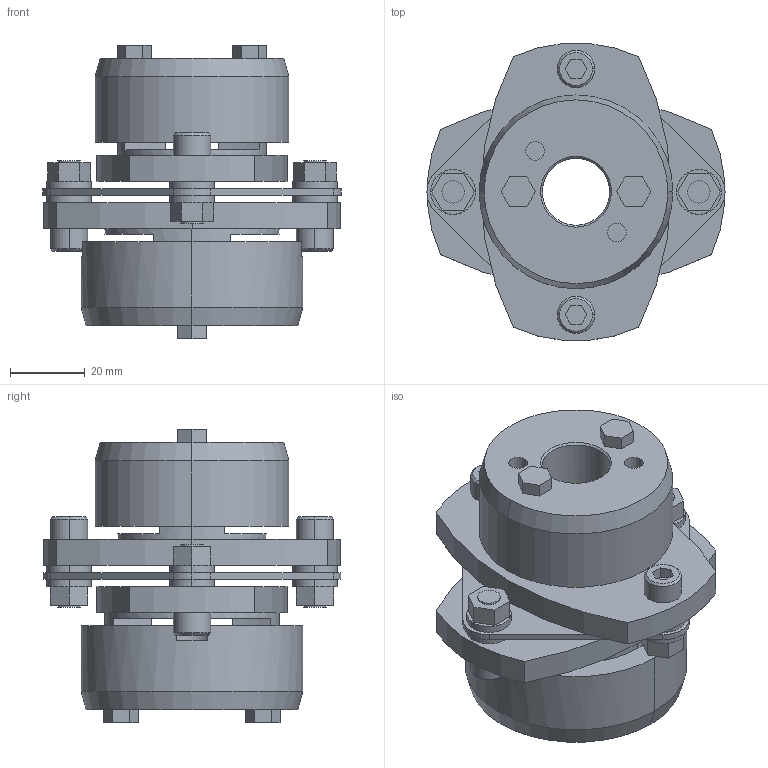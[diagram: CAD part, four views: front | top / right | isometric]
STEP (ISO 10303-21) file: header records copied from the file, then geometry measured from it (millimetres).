
FILE_DESCRIPTION((''),'2;1');
FILE_NAME('LCS-80T7-18×25.stp','2011-09-12T15:00:31',(''),(''),'AutoCAD STEP 2000i','AutoCAD 2000i',', , ');
FILE_SCHEMA(('CONFIG_CONTROL_DESIGN'));
Length unit declared in the file: millimetre
Products named in the file (8): LCS-80T7-17×24; 忣兜1; LC80T7-T024; LC80T7-T022; LC80T7-T019; LC80T7-T017-1; LC80T7-T017; LCS80-ITA
Assembly tree (7 placements, depth 2):
  LCS-80T7-17×24
    忣兜1
    LC80T7-T024
    LC80T7-T022
    LC80T7-T019
    LC80T7-T017-1
    LC80T7-T017
    LCS80-ITA
Bounding box: 80 x 79.95 x 78.75 mm (x, y, z)
Volume: 150395.3 mm3; surface area: 42661 mm2
Topology: 1 solids, 1 shells, 222 faces, 544 edges, 356 vertices
Faces by surface type: plane 120, cylinder 82, cone 20
Entity records: 6801 total; most frequent: DIRECTION 1208, CARTESIAN_POINT 1130, ORIENTED_EDGE 1088, EDGE_CURVE 544, AXIS2_PLACEMENT_3D 434, VERTEX_POINT 356, VECTOR 340, LINE 340
